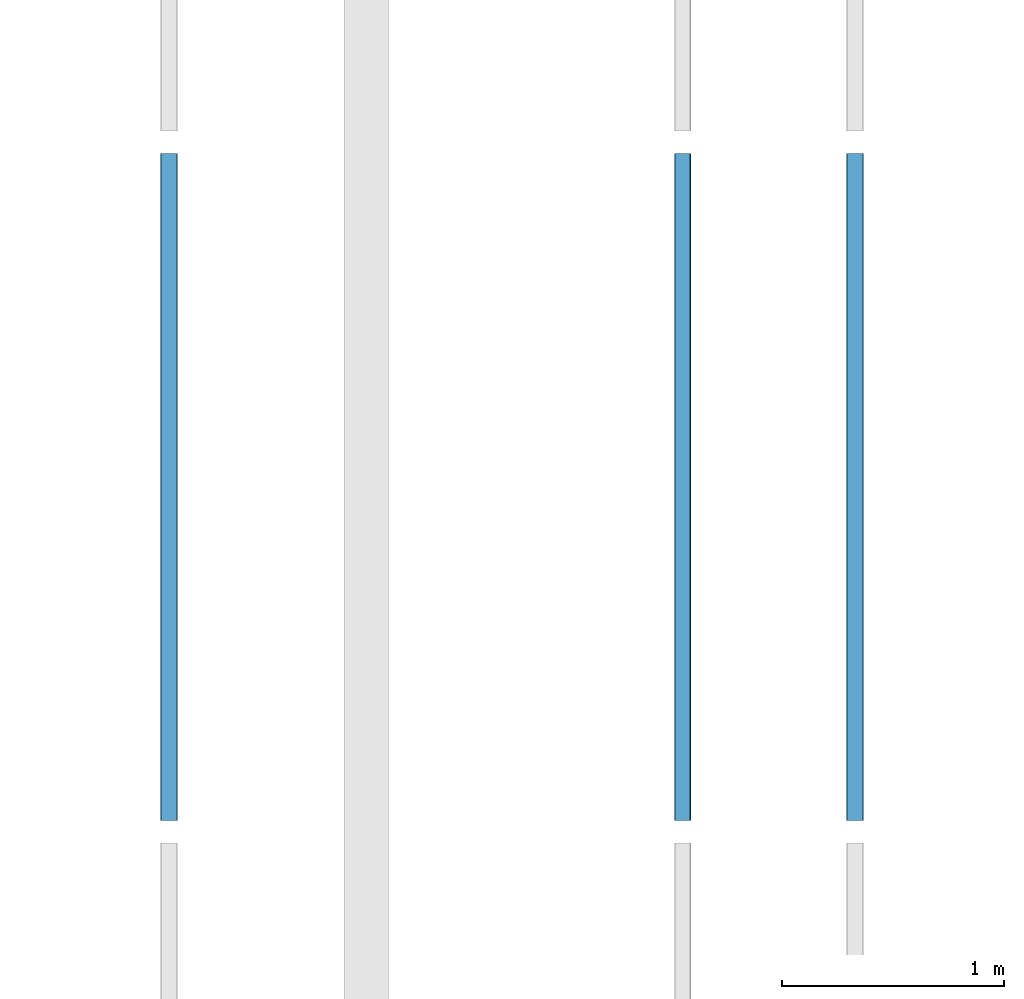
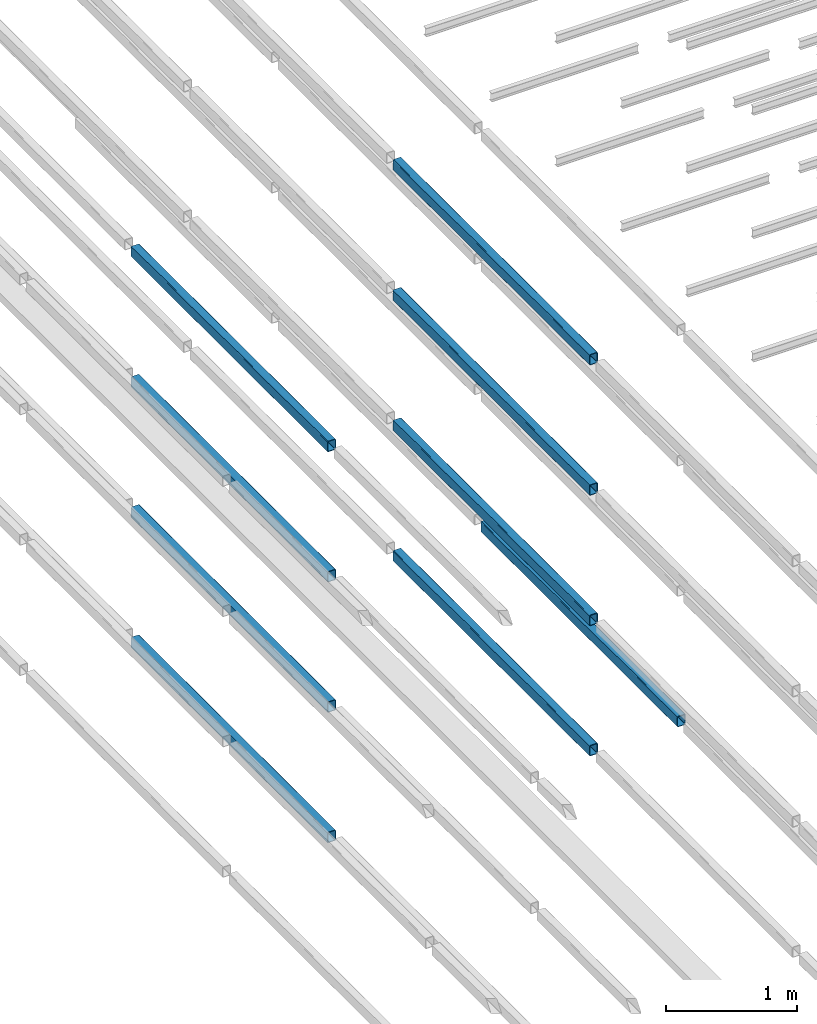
# One storey, part 80 of 290: 9 beams.
"""IFC2X3 building model written with IfcOpenShell, lengths in metres."""

from ifc_helpers import new_model, entity, si_unit, converted_unit, derived_unit, direction, frame, frame_2d, origin, place, context, subcontext, project, spatial, polyline, circle_curve, parameter, trimmed, segment, composite_curve, outline, extrude, material, type_object, element, save


model = new_model("IFC2X3")

# Units and contexts
model_context = context("Model", 3, precision=1e-05, world=origin(), true_north=direction((6.12303176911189e-17, 1.0)))
body_context = subcontext(model_context, "Body", "Model", "MODEL_VIEW")
ifc_project = project(units=[si_unit("LENGTHUNIT", "METRE"), si_unit("AREAUNIT", "SQUARE_METRE"), si_unit("VOLUMEUNIT", "CUBIC_METRE"), converted_unit("PLANEANGLEUNIT", "DEGREE", entity("IfcRatioMeasure", 0.0174532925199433), si_unit("PLANEANGLEUNIT", "RADIAN"), dimensions=[0, 0, 0, 0, 0, 0, 0]), si_unit("MASSUNIT", "GRAM", prefix="KILO"), derived_unit("MASSDENSITYUNIT", [(si_unit("MASSUNIT", "GRAM", prefix="KILO"), 1), (si_unit("LENGTHUNIT", "METRE"), -3)]), derived_unit("MOMENTOFINERTIAUNIT", [(si_unit("LENGTHUNIT", "METRE"), 4)]), si_unit("TIMEUNIT", "SECOND"), si_unit("FREQUENCYUNIT", "HERTZ"), si_unit("THERMODYNAMICTEMPERATUREUNIT", "DEGREE_CELSIUS"), derived_unit("THERMALTRANSMITTANCEUNIT", [(si_unit("MASSUNIT", "GRAM", prefix="KILO"), 1), (si_unit("THERMODYNAMICTEMPERATUREUNIT", "KELVIN"), -1), (si_unit("TIMEUNIT", "SECOND"), -3)]), derived_unit("VOLUMETRICFLOWRATEUNIT", [(si_unit("LENGTHUNIT", "METRE"), 3), (si_unit("TIMEUNIT", "SECOND"), -1)]), si_unit("ELECTRICCURRENTUNIT", "AMPERE"), si_unit("ELECTRICVOLTAGEUNIT", "VOLT"), si_unit("POWERUNIT", "WATT"), si_unit("FORCEUNIT", "NEWTON", prefix="KILO"), si_unit("ILLUMINANCEUNIT", "LUX"), si_unit("LUMINOUSFLUXUNIT", "LUMEN"), si_unit("LUMINOUSINTENSITYUNIT", "CANDELA"), derived_unit("USERDEFINED", [(si_unit("MASSUNIT", "GRAM", prefix="KILO"), -1), (si_unit("LENGTHUNIT", "METRE"), -2), (si_unit("TIMEUNIT", "SECOND"), 3), (si_unit("LUMINOUSFLUXUNIT", "LUMEN"), 1)]), derived_unit("LINEARVELOCITYUNIT", [(si_unit("LENGTHUNIT", "METRE"), 1), (si_unit("TIMEUNIT", "SECOND"), -1)]), si_unit("PRESSUREUNIT", "PASCAL"), derived_unit("USERDEFINED", [(si_unit("LENGTHUNIT", "METRE"), -2), (si_unit("MASSUNIT", "GRAM", prefix="KILO"), 1), (si_unit("TIMEUNIT", "SECOND"), -2)]), derived_unit("LINEARFORCEUNIT", [(si_unit("MASSUNIT", "GRAM", prefix="KILO"), 1), (si_unit("LENGTHUNIT", "METRE"), 1), (si_unit("TIMEUNIT", "SECOND"), -2), (si_unit("LENGTHUNIT", "METRE"), -1)]), derived_unit("PLANARFORCEUNIT", [(si_unit("MASSUNIT", "GRAM", prefix="KILO"), 1), (si_unit("LENGTHUNIT", "METRE"), 1), (si_unit("TIMEUNIT", "SECOND"), -2), (si_unit("LENGTHUNIT", "METRE"), -2)])], contexts=[model_context])

# Site, building, storey
site_placement = place(None, origin())
site = spatial("IfcSite", under=ifc_project, at=site_placement, Name="Default", CompositionType="ELEMENT")
building_placement = place(site_placement, origin())
building = spatial("IfcBuilding", under=site, at=building_placement, CompositionType="ELEMENT")
storey_placement = place(building_placement, frame((0.0, 0.0, 4.0)))
storey = spatial("IfcBuildingStorey", under=building, at=storey_placement, Name="01_OG", CompositionType="ELEMENT", Elevation=4.0)

# Beams
ifc_material = material(Name="Metall - Baustahl S235 blau")
beam_type = type_object("IfcBeamType", Name="RHS Träger (EN 10219-2):RHS 100 x 75 x 5", PredefinedType="NOTDEFINED")
beam_1_placement = place(storey_placement, frame((-178.465111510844, 36.448088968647, -1.2), z_axis=(0.0, 0.0, 1.0), x_axis=(0.0, 1.0, 0.0)))
element("IfcBeam", 1, at=beam_1_placement, inside=storey, type_object=beam_type, material=ifc_material, Name="RHS Träger (EN 10219-2):RHS 100 x 75 x 5", ObjectType="RHS Träger (EN 10219-2):RHS 100 x 75 x 5", context=body_context, shape_type="SweptSolid", body=[
    extrude(outline(composite_curve([segment(polyline([(-0.0400000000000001, -0.0374999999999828), (0.0400000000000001, -0.0374999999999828)]), True, "CONTINUOUS"), segment(trimmed(circle_curve(frame_2d((0.0400000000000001, -0.0274999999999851), x_axis=(0.0, 1.0)), 0.01), [parameter(180.0)], [parameter(270.0)], True, "PARAMETER"), True, "CONTINUOUS"), segment(polyline([(0.05, -0.0274999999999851), (0.05, 0.0274999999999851)]), True, "CONTINUOUS"), segment(trimmed(circle_curve(frame_2d((0.0400000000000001, 0.0274999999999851), x_axis=(0.0, 1.0)), 0.01), [parameter(270.0)], [parameter(4.07110999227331e-13)], True, "PARAMETER"), True, "CONTINUOUS"), segment(polyline([(0.0400000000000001, 0.0375000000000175), (-0.0400000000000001, 0.0375000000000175)]), True, "CONTINUOUS"), segment(trimmed(circle_curve(frame_2d((-0.0400000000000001, 0.0274999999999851), x_axis=(0.0, 1.0)), 0.01), [parameter(360.0)], [parameter(90.0000000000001)], True, "PARAMETER"), True, "CONTINUOUS"), segment(polyline([(-0.05, 0.0274999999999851), (-0.05, -0.0274999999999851)]), True, "CONTINUOUS"), segment(trimmed(circle_curve(frame_2d((-0.0400000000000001, -0.0274999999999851), x_axis=(0.0, 1.0)), 0.01), [parameter(90.0000000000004)], [parameter(180.0)], True, "PARAMETER"), True, "CONTINUOUS")], self_intersect=False), holes=[composite_curve([segment(trimmed(circle_curve(frame_2d((-0.0400000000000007, 0.0274999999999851), x_axis=(0.0, 1.0)), 0.005), [parameter(360.0)], [parameter(89.9999999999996)], True, "PARAMETER"), False, "CONTINUOUS"), segment(polyline([(-0.0400000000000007, 0.0325000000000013), (0.039999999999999, 0.0325000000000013)]), True, "CONTINUOUS"), segment(trimmed(circle_curve(frame_2d((0.039999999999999, 0.0274999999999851), x_axis=(0.0, 1.0)), 0.005), [parameter(270.0)], [parameter(0.0)], True, "PARAMETER"), False, "CONTINUOUS"), segment(polyline([(0.044999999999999, 0.0274999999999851), (0.044999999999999, -0.0274999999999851)]), True, "CONTINUOUS"), segment(trimmed(circle_curve(frame_2d((0.039999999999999, -0.0274999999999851), x_axis=(0.0, 1.0)), 0.005), [parameter(180.0)], [parameter(269.999999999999)], True, "PARAMETER"), False, "CONTINUOUS"), segment(polyline([(0.039999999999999, -0.0325000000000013), (-0.0400000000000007, -0.0325000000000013)]), True, "CONTINUOUS"), segment(trimmed(circle_curve(frame_2d((-0.0400000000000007, -0.0274999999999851), x_axis=(0.0, 1.0)), 0.005), [parameter(90.0000000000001)], [parameter(180.0)], True, "PARAMETER"), False, "CONTINUOUS"), segment(polyline([(-0.0450000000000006, -0.0274999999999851), (-0.0450000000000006, 0.0274999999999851)]), True, "CONTINUOUS")], self_intersect=False)]), frame((9.99999999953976e-05, -0.0375000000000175, -0.0500000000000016), z_axis=(1.0, 0.0, 0.0), x_axis=(0.0, 0.0, -1.0)), (0.0, 0.0, 1.0), 2.9998),
])
beam_2_placement = place(storey_placement, frame((-178.465111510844, 36.448088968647, 0.0150000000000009), z_axis=(0.0, 0.0, 1.0), x_axis=(0.0, 1.0, 0.0)))
element("IfcBeam", 2, at=beam_2_placement, inside=storey, type_object=beam_type, material=ifc_material, Name="RHS Träger (EN 10219-2):RHS 100 x 75 x 5", ObjectType="RHS Träger (EN 10219-2):RHS 100 x 75 x 5", context=body_context, shape_type="SweptSolid", body=[
    extrude(outline(composite_curve([segment(polyline([(-0.0400000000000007, -0.0374999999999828), (0.0399999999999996, -0.0374999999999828)]), True, "CONTINUOUS"), segment(trimmed(circle_curve(frame_2d((0.0399999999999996, -0.0274999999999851), x_axis=(0.0, 1.0)), 0.01), [parameter(180.0)], [parameter(270.0)], True, "PARAMETER"), True, "CONTINUOUS"), segment(polyline([(0.0499999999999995, -0.0274999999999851), (0.0499999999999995, 0.0274999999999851)]), True, "CONTINUOUS"), segment(trimmed(circle_curve(frame_2d((0.0399999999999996, 0.0274999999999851), x_axis=(0.0, 1.0)), 0.01), [parameter(270.0)], [parameter(4.07110999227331e-13)], True, "PARAMETER"), True, "CONTINUOUS"), segment(polyline([(0.0399999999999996, 0.0375000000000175), (-0.0400000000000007, 0.0375000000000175)]), True, "CONTINUOUS"), segment(trimmed(circle_curve(frame_2d((-0.0400000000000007, 0.0274999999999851), x_axis=(0.0, 1.0)), 0.01), [parameter(360.0)], [parameter(90.0000000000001)], True, "PARAMETER"), True, "CONTINUOUS"), segment(polyline([(-0.0500000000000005, 0.0274999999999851), (-0.0500000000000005, -0.0274999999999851)]), True, "CONTINUOUS"), segment(trimmed(circle_curve(frame_2d((-0.0400000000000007, -0.0274999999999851), x_axis=(0.0, 1.0)), 0.01), [parameter(90.0000000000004)], [parameter(180.0)], True, "PARAMETER"), True, "CONTINUOUS")], self_intersect=False), holes=[composite_curve([segment(trimmed(circle_curve(frame_2d((-0.0400000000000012, 0.0274999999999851), x_axis=(0.0, 1.0)), 0.005), [parameter(360.0)], [parameter(89.9999999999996)], True, "PARAMETER"), False, "CONTINUOUS"), segment(polyline([(-0.0400000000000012, 0.0325000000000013), (0.0399999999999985, 0.0325000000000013)]), True, "CONTINUOUS"), segment(trimmed(circle_curve(frame_2d((0.0399999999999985, 0.0274999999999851), x_axis=(0.0, 1.0)), 0.005), [parameter(270.0)], [parameter(0.0)], True, "PARAMETER"), False, "CONTINUOUS"), segment(polyline([(0.0449999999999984, 0.0274999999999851), (0.0449999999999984, -0.0274999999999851)]), True, "CONTINUOUS"), segment(trimmed(circle_curve(frame_2d((0.0399999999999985, -0.0274999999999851), x_axis=(0.0, 1.0)), 0.005), [parameter(180.0)], [parameter(269.999999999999)], True, "PARAMETER"), False, "CONTINUOUS"), segment(polyline([(0.0399999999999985, -0.0325000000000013), (-0.0400000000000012, -0.0325000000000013)]), True, "CONTINUOUS"), segment(trimmed(circle_curve(frame_2d((-0.0400000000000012, -0.0274999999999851), x_axis=(0.0, 1.0)), 0.005), [parameter(90.0000000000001)], [parameter(180.0)], True, "PARAMETER"), False, "CONTINUOUS"), segment(polyline([(-0.0450000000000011, -0.0274999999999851), (-0.0450000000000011, 0.0274999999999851)]), True, "CONTINUOUS")], self_intersect=False)]), frame((9.9999999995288e-05, -0.0375000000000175, -0.0500000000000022), z_axis=(1.0, 0.0, 0.0), x_axis=(0.0, 0.0, -1.0)), (0.0, 0.0, 1.0), 2.9998),
])
beam_3_placement = place(storey_placement, frame((-178.465111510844, 36.448088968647, 1.23), z_axis=(0.0, 0.0, 1.0), x_axis=(0.0, 1.0, 0.0)))
element("IfcBeam", 3, at=beam_3_placement, inside=storey, type_object=beam_type, material=ifc_material, Name="RHS Träger (EN 10219-2):RHS 100 x 75 x 5", ObjectType="RHS Träger (EN 10219-2):RHS 100 x 75 x 5", context=body_context, shape_type="SweptSolid", body=[
    extrude(outline(composite_curve([segment(polyline([(-0.0399999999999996, -0.0374999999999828), (0.0399999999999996, -0.0374999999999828)]), True, "CONTINUOUS"), segment(trimmed(circle_curve(frame_2d((0.0399999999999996, -0.0274999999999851), x_axis=(0.0, 1.0)), 0.01), [parameter(180.0)], [parameter(270.0)], True, "PARAMETER"), True, "CONTINUOUS"), segment(polyline([(0.0500000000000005, -0.0274999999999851), (0.0500000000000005, 0.0274999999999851)]), True, "CONTINUOUS"), segment(trimmed(circle_curve(frame_2d((0.0399999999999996, 0.0274999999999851), x_axis=(0.0, 1.0)), 0.01), [parameter(270.0)], [parameter(4.07110999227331e-13)], True, "PARAMETER"), True, "CONTINUOUS"), segment(polyline([(0.0399999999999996, 0.0375000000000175), (-0.0399999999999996, 0.0375000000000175)]), True, "CONTINUOUS"), segment(trimmed(circle_curve(frame_2d((-0.0399999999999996, 0.0274999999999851), x_axis=(0.0, 1.0)), 0.01), [parameter(360.0)], [parameter(90.0000000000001)], True, "PARAMETER"), True, "CONTINUOUS"), segment(polyline([(-0.0499999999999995, 0.0274999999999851), (-0.0499999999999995, -0.0274999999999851)]), True, "CONTINUOUS"), segment(trimmed(circle_curve(frame_2d((-0.0399999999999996, -0.0274999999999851), x_axis=(0.0, 1.0)), 0.01), [parameter(90.0000000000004)], [parameter(180.0)], True, "PARAMETER"), True, "CONTINUOUS")], self_intersect=False), holes=[composite_curve([segment(trimmed(circle_curve(frame_2d((-0.0400000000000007, 0.0274999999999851), x_axis=(0.0, 1.0)), 0.005), [parameter(360.0)], [parameter(89.9999999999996)], True, "PARAMETER"), False, "CONTINUOUS"), segment(polyline([(-0.0400000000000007, 0.0325000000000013), (0.0399999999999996, 0.0325000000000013)]), True, "CONTINUOUS"), segment(trimmed(circle_curve(frame_2d((0.0399999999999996, 0.0274999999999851), x_axis=(0.0, 1.0)), 0.005), [parameter(270.0)], [parameter(0.0)], True, "PARAMETER"), False, "CONTINUOUS"), segment(polyline([(0.0449999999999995, 0.0274999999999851), (0.0449999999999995, -0.0274999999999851)]), True, "CONTINUOUS"), segment(trimmed(circle_curve(frame_2d((0.0399999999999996, -0.0274999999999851), x_axis=(0.0, 1.0)), 0.005), [parameter(180.0)], [parameter(269.999999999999)], True, "PARAMETER"), False, "CONTINUOUS"), segment(polyline([(0.0399999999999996, -0.0325000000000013), (-0.0400000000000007, -0.0325000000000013)]), True, "CONTINUOUS"), segment(trimmed(circle_curve(frame_2d((-0.0400000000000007, -0.0274999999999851), x_axis=(0.0, 1.0)), 0.005), [parameter(90.0000000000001)], [parameter(180.0)], True, "PARAMETER"), False, "CONTINUOUS"), segment(polyline([(-0.0450000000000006, -0.0274999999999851), (-0.0450000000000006, 0.0274999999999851)]), True, "CONTINUOUS")], self_intersect=False)]), frame((9.99999999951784e-05, -0.0375000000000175, -0.0500000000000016), z_axis=(1.0, 0.0, 0.0), x_axis=(0.0, 0.0, -1.0)), (0.0, 0.0, 1.0), 2.9998),
])
beam_4_placement = place(storey_placement, frame((-178.465111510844, 36.448088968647, 2.445), z_axis=(0.0, 0.0, 1.0), x_axis=(0.0, 1.0, 0.0)))
element("IfcBeam", 4, at=beam_4_placement, inside=storey, type_object=beam_type, material=ifc_material, Name="RHS Träger (EN 10219-2):RHS 100 x 75 x 5", ObjectType="RHS Träger (EN 10219-2):RHS 100 x 75 x 5", context=body_context, shape_type="SweptSolid", body=[
    extrude(outline(composite_curve([segment(polyline([(-0.0399999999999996, -0.0374999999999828), (0.0399999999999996, -0.0374999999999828)]), True, "CONTINUOUS"), segment(trimmed(circle_curve(frame_2d((0.0399999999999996, -0.0274999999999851), x_axis=(0.0, 1.0)), 0.01), [parameter(180.0)], [parameter(270.0)], True, "PARAMETER"), True, "CONTINUOUS"), segment(polyline([(0.0500000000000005, -0.0274999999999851), (0.0500000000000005, 0.0274999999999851)]), True, "CONTINUOUS"), segment(trimmed(circle_curve(frame_2d((0.0399999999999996, 0.0274999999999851), x_axis=(0.0, 1.0)), 0.01), [parameter(270.0)], [parameter(4.07110999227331e-13)], True, "PARAMETER"), True, "CONTINUOUS"), segment(polyline([(0.0399999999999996, 0.0375000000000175), (-0.0399999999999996, 0.0375000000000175)]), True, "CONTINUOUS"), segment(trimmed(circle_curve(frame_2d((-0.0399999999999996, 0.0274999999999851), x_axis=(0.0, 1.0)), 0.01), [parameter(360.0)], [parameter(90.0000000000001)], True, "PARAMETER"), True, "CONTINUOUS"), segment(polyline([(-0.0499999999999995, 0.0274999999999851), (-0.0499999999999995, -0.0274999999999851)]), True, "CONTINUOUS"), segment(trimmed(circle_curve(frame_2d((-0.0399999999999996, -0.0274999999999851), x_axis=(0.0, 1.0)), 0.01), [parameter(90.0000000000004)], [parameter(180.0)], True, "PARAMETER"), True, "CONTINUOUS")], self_intersect=False), holes=[composite_curve([segment(trimmed(circle_curve(frame_2d((-0.0400000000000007, 0.0274999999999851), x_axis=(0.0, 1.0)), 0.005), [parameter(360.0)], [parameter(89.9999999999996)], True, "PARAMETER"), False, "CONTINUOUS"), segment(polyline([(-0.0400000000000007, 0.0325000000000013), (0.0399999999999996, 0.0325000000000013)]), True, "CONTINUOUS"), segment(trimmed(circle_curve(frame_2d((0.0399999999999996, 0.0274999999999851), x_axis=(0.0, 1.0)), 0.005), [parameter(270.0)], [parameter(0.0)], True, "PARAMETER"), False, "CONTINUOUS"), segment(polyline([(0.0449999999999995, 0.0274999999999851), (0.0449999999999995, -0.0274999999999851)]), True, "CONTINUOUS"), segment(trimmed(circle_curve(frame_2d((0.0399999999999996, -0.0274999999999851), x_axis=(0.0, 1.0)), 0.005), [parameter(180.0)], [parameter(269.999999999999)], True, "PARAMETER"), False, "CONTINUOUS"), segment(polyline([(0.0399999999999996, -0.0325000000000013), (-0.0400000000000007, -0.0325000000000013)]), True, "CONTINUOUS"), segment(trimmed(circle_curve(frame_2d((-0.0400000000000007, -0.0274999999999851), x_axis=(0.0, 1.0)), 0.005), [parameter(90.0000000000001)], [parameter(180.0)], True, "PARAMETER"), False, "CONTINUOUS"), segment(polyline([(-0.0450000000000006, -0.0274999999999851), (-0.0450000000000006, 0.0274999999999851)]), True, "CONTINUOUS")], self_intersect=False)]), frame((9.99999999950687e-05, -0.0375000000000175, -0.0500000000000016), z_axis=(1.0, 0.0, 0.0), x_axis=(0.0, 0.0, -1.0)), (0.0, 0.0, 1.0), 2.9998),
])
beam_5_placement = place(storey_placement, frame((-175.305111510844, 36.448088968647, -1.2), z_axis=(0.0, 0.0, 1.0), x_axis=(0.0, 1.0, 0.0)))
element("IfcBeam", 5, at=beam_5_placement, inside=storey, type_object=beam_type, material=ifc_material, Name="RHS Träger (EN 10219-2):RHS 100 x 75 x 5", ObjectType="RHS Träger (EN 10219-2):RHS 100 x 75 x 5", context=body_context, shape_type="SweptSolid", body=[
    extrude(outline(composite_curve([segment(trimmed(circle_curve(frame_2d((-0.0274999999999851, -0.0400000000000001), x_axis=(1.0, 0.0)), 0.01), [parameter(180.0)], [parameter(270.0)], True, "PARAMETER"), True, "CONTINUOUS"), segment(polyline([(-0.0274999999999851, -0.05), (0.0274999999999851, -0.05)]), True, "CONTINUOUS"), segment(trimmed(circle_curve(frame_2d((0.0274999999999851, -0.0400000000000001), x_axis=(1.0, 0.0)), 0.01), [parameter(270.0)], [parameter(5.08888749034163e-14)], True, "PARAMETER"), True, "CONTINUOUS"), segment(polyline([(0.0375000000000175, -0.0400000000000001), (0.0375000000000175, 0.0400000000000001)]), True, "CONTINUOUS"), segment(trimmed(circle_curve(frame_2d((0.0274999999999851, 0.0400000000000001), x_axis=(1.0, 0.0)), 0.01), [parameter(360.0)], [parameter(89.9999999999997)], True, "PARAMETER"), True, "CONTINUOUS"), segment(polyline([(0.0274999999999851, 0.05), (-0.0274999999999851, 0.05)]), True, "CONTINUOUS"), segment(trimmed(circle_curve(frame_2d((-0.0274999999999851, 0.0400000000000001), x_axis=(1.0, 0.0)), 0.01), [parameter(90.0000000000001)], [parameter(180.0)], True, "PARAMETER"), True, "CONTINUOUS"), segment(polyline([(-0.0374999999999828, 0.0400000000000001), (-0.0374999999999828, -0.0400000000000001)]), True, "CONTINUOUS")], self_intersect=False), holes=[composite_curve([segment(polyline([(0.0274999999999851, -0.0450000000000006), (-0.0274999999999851, -0.0450000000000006)]), True, "CONTINUOUS"), segment(trimmed(circle_curve(frame_2d((-0.0274999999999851, -0.0400000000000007), x_axis=(1.0, 0.0)), 0.005), [parameter(180.0)], [parameter(270.0)], True, "PARAMETER"), False, "CONTINUOUS"), segment(polyline([(-0.0325000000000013, -0.0400000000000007), (-0.0325000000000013, 0.039999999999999)]), True, "CONTINUOUS"), segment(trimmed(circle_curve(frame_2d((-0.0274999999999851, 0.039999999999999), x_axis=(1.0, 0.0)), 0.005), [parameter(90.0000000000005)], [parameter(180.0)], True, "PARAMETER"), False, "CONTINUOUS"), segment(polyline([(-0.0274999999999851, 0.044999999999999), (0.0274999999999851, 0.044999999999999)]), True, "CONTINUOUS"), segment(trimmed(circle_curve(frame_2d((0.0274999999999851, 0.039999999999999), x_axis=(1.0, 0.0)), 0.005), [parameter(0.0)], [parameter(90.0000000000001)], True, "PARAMETER"), False, "CONTINUOUS"), segment(polyline([(0.0325000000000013, 0.039999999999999), (0.0325000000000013, -0.0400000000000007)]), True, "CONTINUOUS"), segment(trimmed(circle_curve(frame_2d((0.0274999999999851, -0.0400000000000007), x_axis=(1.0, 0.0)), 0.005), [parameter(270.0)], [parameter(4.07110999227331e-13)], True, "PARAMETER"), False, "CONTINUOUS")], self_intersect=False)]), frame((9.99999999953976e-05, 0.0375000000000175, -0.0500000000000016), z_axis=(1.0, 0.0, 0.0), x_axis=(0.0, -1.0, 0.0)), (0.0, 0.0, 1.0), 2.9998),
])
beam_6_placement = place(storey_placement, frame((-176.155111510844, 36.448088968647, -1.2), z_axis=(0.0, 0.0, 1.0), x_axis=(0.0, 1.0, 0.0)))
element("IfcBeam", 6, at=beam_6_placement, inside=storey, type_object=beam_type, material=ifc_material, Name="RHS Träger (EN 10219-2):RHS 100 x 75 x 5", ObjectType="RHS Träger (EN 10219-2):RHS 100 x 75 x 5", context=body_context, shape_type="SweptSolid", body=[
    extrude(outline(composite_curve([segment(polyline([(-0.0400000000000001, -0.0374999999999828), (0.0400000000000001, -0.0374999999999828)]), True, "CONTINUOUS"), segment(trimmed(circle_curve(frame_2d((0.0400000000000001, -0.0274999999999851), x_axis=(0.0, 1.0)), 0.01), [parameter(180.0)], [parameter(270.0)], True, "PARAMETER"), True, "CONTINUOUS"), segment(polyline([(0.05, -0.0274999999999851), (0.05, 0.0274999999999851)]), True, "CONTINUOUS"), segment(trimmed(circle_curve(frame_2d((0.0400000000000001, 0.0274999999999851), x_axis=(0.0, 1.0)), 0.01), [parameter(270.0)], [parameter(4.07110999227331e-13)], True, "PARAMETER"), True, "CONTINUOUS"), segment(polyline([(0.0400000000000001, 0.0375000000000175), (-0.0400000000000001, 0.0375000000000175)]), True, "CONTINUOUS"), segment(trimmed(circle_curve(frame_2d((-0.0400000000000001, 0.0274999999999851), x_axis=(0.0, 1.0)), 0.01), [parameter(360.0)], [parameter(90.0000000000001)], True, "PARAMETER"), True, "CONTINUOUS"), segment(polyline([(-0.05, 0.0274999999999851), (-0.05, -0.0274999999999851)]), True, "CONTINUOUS"), segment(trimmed(circle_curve(frame_2d((-0.0400000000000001, -0.0274999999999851), x_axis=(0.0, 1.0)), 0.01), [parameter(90.0000000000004)], [parameter(180.0)], True, "PARAMETER"), True, "CONTINUOUS")], self_intersect=False), holes=[composite_curve([segment(trimmed(circle_curve(frame_2d((-0.0400000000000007, 0.0274999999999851), x_axis=(0.0, 1.0)), 0.005), [parameter(360.0)], [parameter(89.9999999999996)], True, "PARAMETER"), False, "CONTINUOUS"), segment(polyline([(-0.0400000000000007, 0.0325000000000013), (0.039999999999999, 0.0325000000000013)]), True, "CONTINUOUS"), segment(trimmed(circle_curve(frame_2d((0.039999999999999, 0.0274999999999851), x_axis=(0.0, 1.0)), 0.005), [parameter(270.0)], [parameter(0.0)], True, "PARAMETER"), False, "CONTINUOUS"), segment(polyline([(0.044999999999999, 0.0274999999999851), (0.044999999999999, -0.0274999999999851)]), True, "CONTINUOUS"), segment(trimmed(circle_curve(frame_2d((0.039999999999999, -0.0274999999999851), x_axis=(0.0, 1.0)), 0.005), [parameter(180.0)], [parameter(269.999999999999)], True, "PARAMETER"), False, "CONTINUOUS"), segment(polyline([(0.039999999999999, -0.0325000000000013), (-0.0400000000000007, -0.0325000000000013)]), True, "CONTINUOUS"), segment(trimmed(circle_curve(frame_2d((-0.0400000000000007, -0.0274999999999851), x_axis=(0.0, 1.0)), 0.005), [parameter(90.0000000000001)], [parameter(180.0)], True, "PARAMETER"), False, "CONTINUOUS"), segment(polyline([(-0.0450000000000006, -0.0274999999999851), (-0.0450000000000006, 0.0274999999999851)]), True, "CONTINUOUS")], self_intersect=False)]), frame((9.99999999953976e-05, -0.0375000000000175, -0.0500000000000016), z_axis=(1.0, 0.0, 0.0), x_axis=(0.0, 0.0, -1.0)), (0.0, 0.0, 1.0), 2.9998),
])
beam_7_placement = place(storey_placement, frame((-176.155111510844, 36.448088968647, 0.0150000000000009), z_axis=(0.0, 0.0, 1.0), x_axis=(0.0, 1.0, 0.0)))
element("IfcBeam", 7, at=beam_7_placement, inside=storey, type_object=beam_type, material=ifc_material, Name="RHS Träger (EN 10219-2):RHS 100 x 75 x 5", ObjectType="RHS Träger (EN 10219-2):RHS 100 x 75 x 5", context=body_context, shape_type="SweptSolid", body=[
    extrude(outline(composite_curve([segment(polyline([(-0.0400000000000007, -0.0374999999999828), (0.0399999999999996, -0.0374999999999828)]), True, "CONTINUOUS"), segment(trimmed(circle_curve(frame_2d((0.0399999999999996, -0.0274999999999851), x_axis=(0.0, 1.0)), 0.01), [parameter(180.0)], [parameter(270.0)], True, "PARAMETER"), True, "CONTINUOUS"), segment(polyline([(0.0499999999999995, -0.0274999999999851), (0.0499999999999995, 0.0274999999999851)]), True, "CONTINUOUS"), segment(trimmed(circle_curve(frame_2d((0.0399999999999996, 0.0274999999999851), x_axis=(0.0, 1.0)), 0.01), [parameter(270.0)], [parameter(4.07110999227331e-13)], True, "PARAMETER"), True, "CONTINUOUS"), segment(polyline([(0.0399999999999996, 0.0375000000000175), (-0.0400000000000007, 0.0375000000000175)]), True, "CONTINUOUS"), segment(trimmed(circle_curve(frame_2d((-0.0400000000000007, 0.0274999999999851), x_axis=(0.0, 1.0)), 0.01), [parameter(360.0)], [parameter(90.0000000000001)], True, "PARAMETER"), True, "CONTINUOUS"), segment(polyline([(-0.0500000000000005, 0.0274999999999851), (-0.0500000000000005, -0.0274999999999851)]), True, "CONTINUOUS"), segment(trimmed(circle_curve(frame_2d((-0.0400000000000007, -0.0274999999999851), x_axis=(0.0, 1.0)), 0.01), [parameter(90.0000000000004)], [parameter(180.0)], True, "PARAMETER"), True, "CONTINUOUS")], self_intersect=False), holes=[composite_curve([segment(trimmed(circle_curve(frame_2d((-0.0400000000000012, 0.0274999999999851), x_axis=(0.0, 1.0)), 0.005), [parameter(360.0)], [parameter(89.9999999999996)], True, "PARAMETER"), False, "CONTINUOUS"), segment(polyline([(-0.0400000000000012, 0.0325000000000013), (0.0399999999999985, 0.0325000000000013)]), True, "CONTINUOUS"), segment(trimmed(circle_curve(frame_2d((0.0399999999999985, 0.0274999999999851), x_axis=(0.0, 1.0)), 0.005), [parameter(270.0)], [parameter(0.0)], True, "PARAMETER"), False, "CONTINUOUS"), segment(polyline([(0.0449999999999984, 0.0274999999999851), (0.0449999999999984, -0.0274999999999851)]), True, "CONTINUOUS"), segment(trimmed(circle_curve(frame_2d((0.0399999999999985, -0.0274999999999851), x_axis=(0.0, 1.0)), 0.005), [parameter(180.0)], [parameter(269.999999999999)], True, "PARAMETER"), False, "CONTINUOUS"), segment(polyline([(0.0399999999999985, -0.0325000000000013), (-0.0400000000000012, -0.0325000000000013)]), True, "CONTINUOUS"), segment(trimmed(circle_curve(frame_2d((-0.0400000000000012, -0.0274999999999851), x_axis=(0.0, 1.0)), 0.005), [parameter(90.0000000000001)], [parameter(180.0)], True, "PARAMETER"), False, "CONTINUOUS"), segment(polyline([(-0.0450000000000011, -0.0274999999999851), (-0.0450000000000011, 0.0274999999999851)]), True, "CONTINUOUS")], self_intersect=False)]), frame((9.9999999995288e-05, -0.0375000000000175, -0.0500000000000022), z_axis=(1.0, 0.0, 0.0), x_axis=(0.0, 0.0, -1.0)), (0.0, 0.0, 1.0), 2.9998),
])
beam_8_placement = place(storey_placement, frame((-176.155111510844, 36.448088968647, 1.23), z_axis=(0.0, 0.0, 1.0), x_axis=(0.0, 1.0, 0.0)))
element("IfcBeam", 8, at=beam_8_placement, inside=storey, type_object=beam_type, material=ifc_material, Name="RHS Träger (EN 10219-2):RHS 100 x 75 x 5", ObjectType="RHS Träger (EN 10219-2):RHS 100 x 75 x 5", context=body_context, shape_type="SweptSolid", body=[
    extrude(outline(composite_curve([segment(polyline([(-0.0399999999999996, -0.0374999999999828), (0.0399999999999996, -0.0374999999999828)]), True, "CONTINUOUS"), segment(trimmed(circle_curve(frame_2d((0.0399999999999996, -0.0274999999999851), x_axis=(0.0, 1.0)), 0.01), [parameter(180.0)], [parameter(270.0)], True, "PARAMETER"), True, "CONTINUOUS"), segment(polyline([(0.0500000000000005, -0.0274999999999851), (0.0500000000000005, 0.0274999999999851)]), True, "CONTINUOUS"), segment(trimmed(circle_curve(frame_2d((0.0399999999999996, 0.0274999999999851), x_axis=(0.0, 1.0)), 0.01), [parameter(270.0)], [parameter(4.07110999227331e-13)], True, "PARAMETER"), True, "CONTINUOUS"), segment(polyline([(0.0399999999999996, 0.0375000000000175), (-0.0399999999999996, 0.0375000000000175)]), True, "CONTINUOUS"), segment(trimmed(circle_curve(frame_2d((-0.0399999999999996, 0.0274999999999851), x_axis=(0.0, 1.0)), 0.01), [parameter(360.0)], [parameter(90.0000000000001)], True, "PARAMETER"), True, "CONTINUOUS"), segment(polyline([(-0.0499999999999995, 0.0274999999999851), (-0.0499999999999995, -0.0274999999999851)]), True, "CONTINUOUS"), segment(trimmed(circle_curve(frame_2d((-0.0399999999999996, -0.0274999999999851), x_axis=(0.0, 1.0)), 0.01), [parameter(90.0000000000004)], [parameter(180.0)], True, "PARAMETER"), True, "CONTINUOUS")], self_intersect=False), holes=[composite_curve([segment(trimmed(circle_curve(frame_2d((-0.0400000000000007, 0.0274999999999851), x_axis=(0.0, 1.0)), 0.005), [parameter(360.0)], [parameter(89.9999999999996)], True, "PARAMETER"), False, "CONTINUOUS"), segment(polyline([(-0.0400000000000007, 0.0325000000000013), (0.0399999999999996, 0.0325000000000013)]), True, "CONTINUOUS"), segment(trimmed(circle_curve(frame_2d((0.0399999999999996, 0.0274999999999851), x_axis=(0.0, 1.0)), 0.005), [parameter(270.0)], [parameter(0.0)], True, "PARAMETER"), False, "CONTINUOUS"), segment(polyline([(0.0449999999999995, 0.0274999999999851), (0.0449999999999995, -0.0274999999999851)]), True, "CONTINUOUS"), segment(trimmed(circle_curve(frame_2d((0.0399999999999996, -0.0274999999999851), x_axis=(0.0, 1.0)), 0.005), [parameter(180.0)], [parameter(269.999999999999)], True, "PARAMETER"), False, "CONTINUOUS"), segment(polyline([(0.0399999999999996, -0.0325000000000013), (-0.0400000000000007, -0.0325000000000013)]), True, "CONTINUOUS"), segment(trimmed(circle_curve(frame_2d((-0.0400000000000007, -0.0274999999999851), x_axis=(0.0, 1.0)), 0.005), [parameter(90.0000000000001)], [parameter(180.0)], True, "PARAMETER"), False, "CONTINUOUS"), segment(polyline([(-0.0450000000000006, -0.0274999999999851), (-0.0450000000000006, 0.0274999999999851)]), True, "CONTINUOUS")], self_intersect=False)]), frame((9.99999999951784e-05, -0.0375000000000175, -0.0500000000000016), z_axis=(1.0, 0.0, 0.0), x_axis=(0.0, 0.0, -1.0)), (0.0, 0.0, 1.0), 2.9998),
])
beam_9_placement = place(storey_placement, frame((-176.155111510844, 36.448088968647, 2.445), z_axis=(0.0, 0.0, 1.0), x_axis=(0.0, 1.0, 0.0)))
element("IfcBeam", 9, at=beam_9_placement, inside=storey, type_object=beam_type, material=ifc_material, Name="RHS Träger (EN 10219-2):RHS 100 x 75 x 5", ObjectType="RHS Träger (EN 10219-2):RHS 100 x 75 x 5", context=body_context, shape_type="SweptSolid", body=[
    extrude(outline(composite_curve([segment(polyline([(-0.0399999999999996, -0.0374999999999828), (0.0399999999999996, -0.0374999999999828)]), True, "CONTINUOUS"), segment(trimmed(circle_curve(frame_2d((0.0399999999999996, -0.0274999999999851), x_axis=(0.0, 1.0)), 0.01), [parameter(180.0)], [parameter(270.0)], True, "PARAMETER"), True, "CONTINUOUS"), segment(polyline([(0.0500000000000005, -0.0274999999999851), (0.0500000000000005, 0.0274999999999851)]), True, "CONTINUOUS"), segment(trimmed(circle_curve(frame_2d((0.0399999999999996, 0.0274999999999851), x_axis=(0.0, 1.0)), 0.01), [parameter(270.0)], [parameter(4.07110999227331e-13)], True, "PARAMETER"), True, "CONTINUOUS"), segment(polyline([(0.0399999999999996, 0.0375000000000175), (-0.0399999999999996, 0.0375000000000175)]), True, "CONTINUOUS"), segment(trimmed(circle_curve(frame_2d((-0.0399999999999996, 0.0274999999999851), x_axis=(0.0, 1.0)), 0.01), [parameter(360.0)], [parameter(90.0000000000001)], True, "PARAMETER"), True, "CONTINUOUS"), segment(polyline([(-0.0499999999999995, 0.0274999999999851), (-0.0499999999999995, -0.0274999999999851)]), True, "CONTINUOUS"), segment(trimmed(circle_curve(frame_2d((-0.0399999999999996, -0.0274999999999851), x_axis=(0.0, 1.0)), 0.01), [parameter(90.0000000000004)], [parameter(180.0)], True, "PARAMETER"), True, "CONTINUOUS")], self_intersect=False), holes=[composite_curve([segment(trimmed(circle_curve(frame_2d((-0.0400000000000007, 0.0274999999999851), x_axis=(0.0, 1.0)), 0.005), [parameter(360.0)], [parameter(89.9999999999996)], True, "PARAMETER"), False, "CONTINUOUS"), segment(polyline([(-0.0400000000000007, 0.0325000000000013), (0.0399999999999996, 0.0325000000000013)]), True, "CONTINUOUS"), segment(trimmed(circle_curve(frame_2d((0.0399999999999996, 0.0274999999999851), x_axis=(0.0, 1.0)), 0.005), [parameter(270.0)], [parameter(0.0)], True, "PARAMETER"), False, "CONTINUOUS"), segment(polyline([(0.0449999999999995, 0.0274999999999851), (0.0449999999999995, -0.0274999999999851)]), True, "CONTINUOUS"), segment(trimmed(circle_curve(frame_2d((0.0399999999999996, -0.0274999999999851), x_axis=(0.0, 1.0)), 0.005), [parameter(180.0)], [parameter(269.999999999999)], True, "PARAMETER"), False, "CONTINUOUS"), segment(polyline([(0.0399999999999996, -0.0325000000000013), (-0.0400000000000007, -0.0325000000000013)]), True, "CONTINUOUS"), segment(trimmed(circle_curve(frame_2d((-0.0400000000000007, -0.0274999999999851), x_axis=(0.0, 1.0)), 0.005), [parameter(90.0000000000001)], [parameter(180.0)], True, "PARAMETER"), False, "CONTINUOUS"), segment(polyline([(-0.0450000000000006, -0.0274999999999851), (-0.0450000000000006, 0.0274999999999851)]), True, "CONTINUOUS")], self_intersect=False)]), frame((9.99999999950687e-05, -0.0375000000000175, -0.0500000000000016), z_axis=(1.0, 0.0, 0.0), x_axis=(0.0, 0.0, -1.0)), (0.0, 0.0, 1.0), 2.9998),
])

save(model, "model.ifc")
